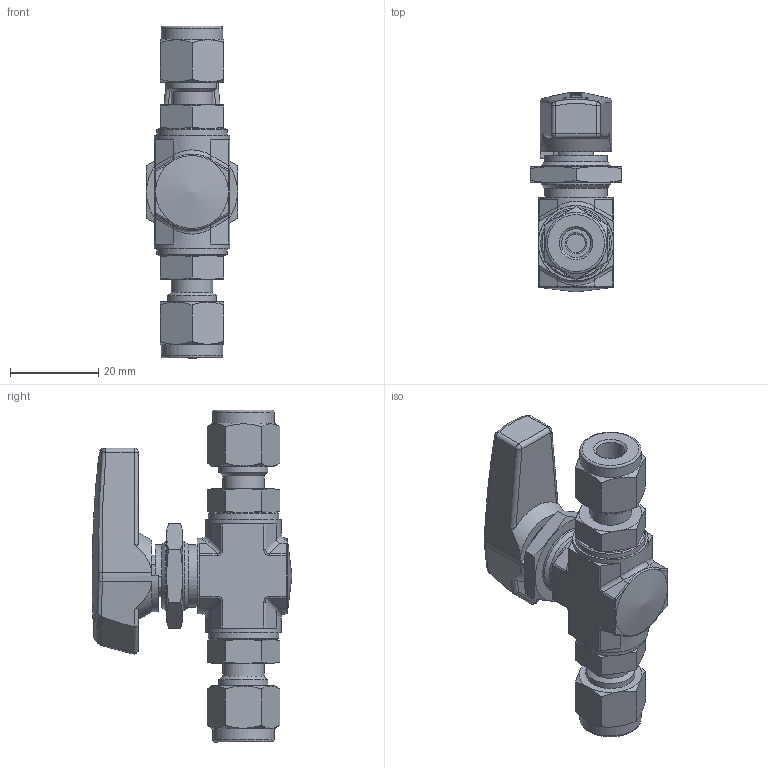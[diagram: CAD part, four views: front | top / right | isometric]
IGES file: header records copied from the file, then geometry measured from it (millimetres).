
Global section: file name: SBVF3601-S4; native system: Autodesk Inventor 2016; preprocessor: unknown; author: DESIGNPC2; date: 20160611.112155; units: millimetre
Bounding box: 20.64 x 45.3 x 75.29 mm (x, y, z)
Volume: 22119.5 mm3; surface area: 10255.7 mm2
Topology: 5 solids, 5 shells, 522 faces, 1326 edges, 852 vertices
Faces by surface type: bspline 522
